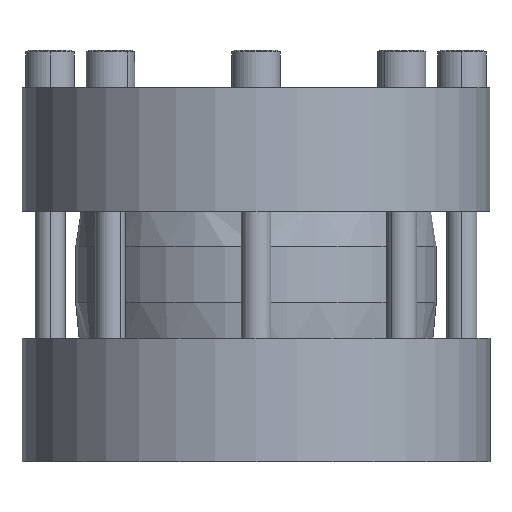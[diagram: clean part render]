
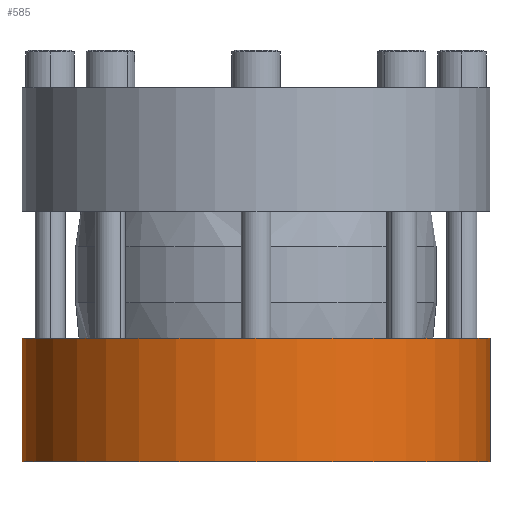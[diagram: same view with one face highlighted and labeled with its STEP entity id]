
A CAD part, front view. The second image highlights one B-rep face of the part: STEP entity #585.
In plain terms, the highlighted cylindrical face has radius 625 mm (diameter 1250 mm), a partial arc.
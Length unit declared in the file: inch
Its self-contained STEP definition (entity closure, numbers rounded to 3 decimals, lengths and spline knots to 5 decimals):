
#17 = DIRECTION ( 'NONE',  ( 1., 0., 0. ) ) ;
#42 = DIRECTION ( 'NONE',  ( 0., 0., 1. ) ) ;
#61 = EDGE_CURVE ( 'NONE', #428, #690, #2445, .T. ) ;
#274 = EDGE_CURVE ( 'NONE', #690, #2271, #1157, .T. ) ;
#352 = VECTOR ( 'NONE', #2197, 39.37008 ) ;
#358 = ORIENTED_EDGE ( 'NONE', *, *, #2425, .F. ) ;
#428 = VERTEX_POINT ( 'NONE', #831 ) ;
#449 = ORIENTED_EDGE ( 'NONE', *, *, #274, .T. ) ;
#585 = ADVANCED_FACE ( 'NONE', ( #1772 ), #1556, .T. ) ;
#661 = DIRECTION ( 'NONE',  ( 0., 0., 1. ) ) ;
#690 = VERTEX_POINT ( 'NONE', #2012 ) ;
#700 = CARTESIAN_POINT ( 'NONE',  ( 27.55906, 39.37008, -26.37795 ) ) ;
#828 = AXIS2_PLACEMENT_3D ( 'NONE', #1815, #661, #2308 ) ;
#831 = CARTESIAN_POINT ( 'NONE',  ( 2.95276, 39.37008, -39.37008 ) ) ;
#838 = ORIENTED_EDGE ( 'NONE', *, *, #61, .T. ) ;
#1061 = EDGE_CURVE ( 'NONE', #2271, #2773, #2334, .T. ) ;
#1157 = LINE ( 'NONE', #1502, #352 ) ;
#1376 = EDGE_LOOP ( 'NONE', ( #358, #838, #449, #2514 ) ) ;
#1412 = CARTESIAN_POINT ( 'NONE',  ( 27.55906, 39.37008, -39.37008 ) ) ;
#1436 = CARTESIAN_POINT ( 'NONE',  ( 2.95276, 39.37008, -32.87402 ) ) ;
#1502 = CARTESIAN_POINT ( 'NONE',  ( 52.16535, 39.37008, -32.87402 ) ) ;
#1556 = CYLINDRICAL_SURFACE ( 'NONE', #828, 24.6063 ) ;
#1671 = DIRECTION ( 'NONE',  ( 0., 0., 1. ) ) ;
#1719 = LINE ( 'NONE', #1436, #2786 ) ;
#1772 = FACE_OUTER_BOUND ( 'NONE', #1376, .T. ) ;
#1815 = CARTESIAN_POINT ( 'NONE',  ( 27.55906, 39.37008, -32.87402 ) ) ;
#2012 = CARTESIAN_POINT ( 'NONE',  ( 52.16535, 39.37008, -39.37008 ) ) ;
#2103 = AXIS2_PLACEMENT_3D ( 'NONE', #1412, #1671, #17 ) ;
#2197 = DIRECTION ( 'NONE',  ( 0., 0., 1. ) ) ;
#2243 = AXIS2_PLACEMENT_3D ( 'NONE', #700, #3015, #2779 ) ;
#2271 = VERTEX_POINT ( 'NONE', #2697 ) ;
#2308 = DIRECTION ( 'NONE',  ( 1., 0., 0. ) ) ;
#2334 = CIRCLE ( 'NONE', #2243, 24.6063 ) ;
#2425 = EDGE_CURVE ( 'NONE', #428, #2773, #1719, .T. ) ;
#2445 = CIRCLE ( 'NONE', #2103, 24.6063 ) ;
#2514 = ORIENTED_EDGE ( 'NONE', *, *, #1061, .T. ) ;
#2697 = CARTESIAN_POINT ( 'NONE',  ( 52.16535, 39.37008, -26.37795 ) ) ;
#2773 = VERTEX_POINT ( 'NONE', #2929 ) ;
#2779 = DIRECTION ( 'NONE',  ( 1., 0., 0. ) ) ;
#2786 = VECTOR ( 'NONE', #42, 39.37008 ) ;
#2929 = CARTESIAN_POINT ( 'NONE',  ( 2.95276, 39.37008, -26.37795 ) ) ;
#3015 = DIRECTION ( 'NONE',  ( 0., 0., -1. ) ) ;
